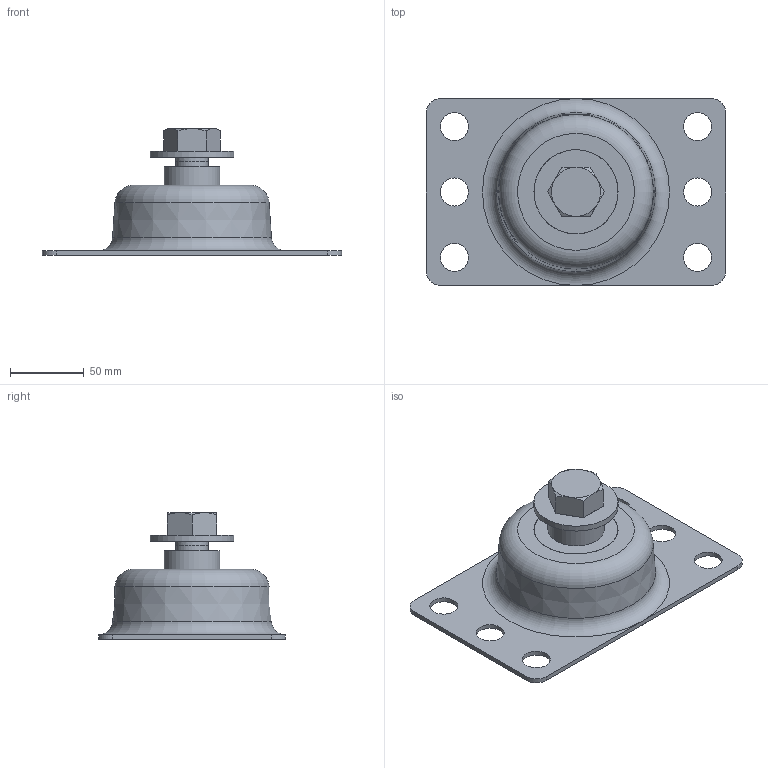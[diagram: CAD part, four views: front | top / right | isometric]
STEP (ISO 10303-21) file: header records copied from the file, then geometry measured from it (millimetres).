
FILE_DESCRIPTION(/* description */ (''),/* implementation_level */ '2;1');
FILE_NAME(/* name */ '\\Mleuckthor2\cad-proe_solids\WEBSITE FILES 05.22.13\STEP\RAA, RBA, RCA, RDA\RDA.stp',/* time_stamp */ '2016-01-15T17:01:17-05:00',/* author */ ('rramoutar'),/* organization */ ('Mason Industries Inc.'),/* preprocessor_version */ 'ST-DEVELOPER v15.6',/* originating_system */ 'Autodesk Inventor 2015',/* authorisation */ '');
FILE_SCHEMA (('CONFIG_CONTROL_DESIGN'));
Length unit declared in the file: inch
Products named in the file (1): A-26144-3 RDA MOUNT
Bounding box: 203.2 x 127 x 86.08 mm (x, y, z)
Volume: 495161.9 mm3; surface area: 154797.7 mm2
Topology: 6 solids, 6 shells, 87 faces, 178 edges, 112 vertices
Faces by surface type: plane 37, cylinder 22, cone 15, torus 13
Full cylindrical faces by diameter (mm): 19.05 x6, 22.225 x2, 23.825 x1, 28.632 x1, 33.325 x1, 38.1 x2, 39.688 x1, 50.8 x1, 57.15 x3
Entity records: 2178 total; most frequent: DIRECTION 378, CARTESIAN_POINT 346, ORIENTED_EDGE 260, AXIS2_PLACEMENT_3D 172, EDGE_LOOP 158, EDGE_CURVE 130, VERTEX_POINT 104, STYLED_ITEM 93
